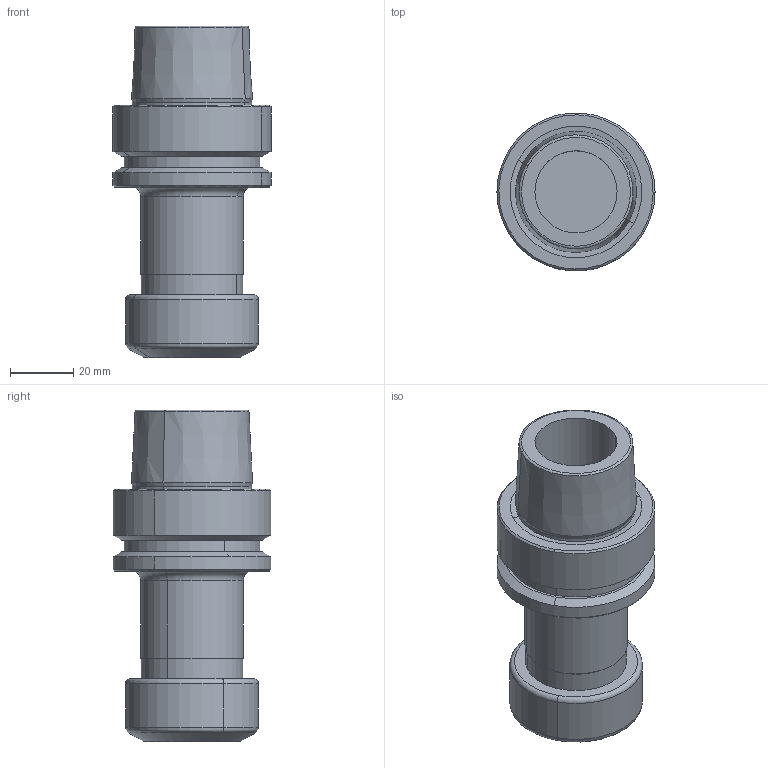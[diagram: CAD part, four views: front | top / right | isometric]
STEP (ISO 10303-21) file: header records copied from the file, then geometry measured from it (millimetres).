
FILE_DESCRIPTION(('CATIA V5 STEP','CAx-IF Rec.Pracs.--- Model Styling and Organization---1.2---2011-12-15'),'2;1');
FILE_NAME('\\nas01\drv1\utils\eitdev\rte\eit\transmagicconvert\db\out\635935385813128915\4504605-D-B-L.stp','2016-03-14T05:49:56+00:00',('none'),('none'),'CATIA Version 5 Release 21 SP 5 (IN-10)','CATIA V5 STEP AP214','none');
FILE_SCHEMA(('AUTOMOTIVE_DESIGN { 1 0 10303 214 1 1 1 1 }'));
Length unit declared in the file: millimetre
Products named in the file (1): HSK E 50 ER25X 80
Bounding box: 50 x 49.83 x 105 mm (x, y, z)
Volume: 95300.3 mm3; surface area: 23713.5 mm2
Topology: 1 solids, 1 shells, 65 faces, 140 edges, 83 vertices
Faces by surface type: cylinder 22, cone 22, torus 12, plane 9
Entity records: 1567 total; most frequent: ORIENTED_EDGE 276, CARTESIAN_POINT 261, DIRECTION 216, EDGE_CURVE 138, AXIS2_PLACEMENT_3D 134, CIRCLE 94, VERTEX_POINT 83, EDGE_LOOP 73
